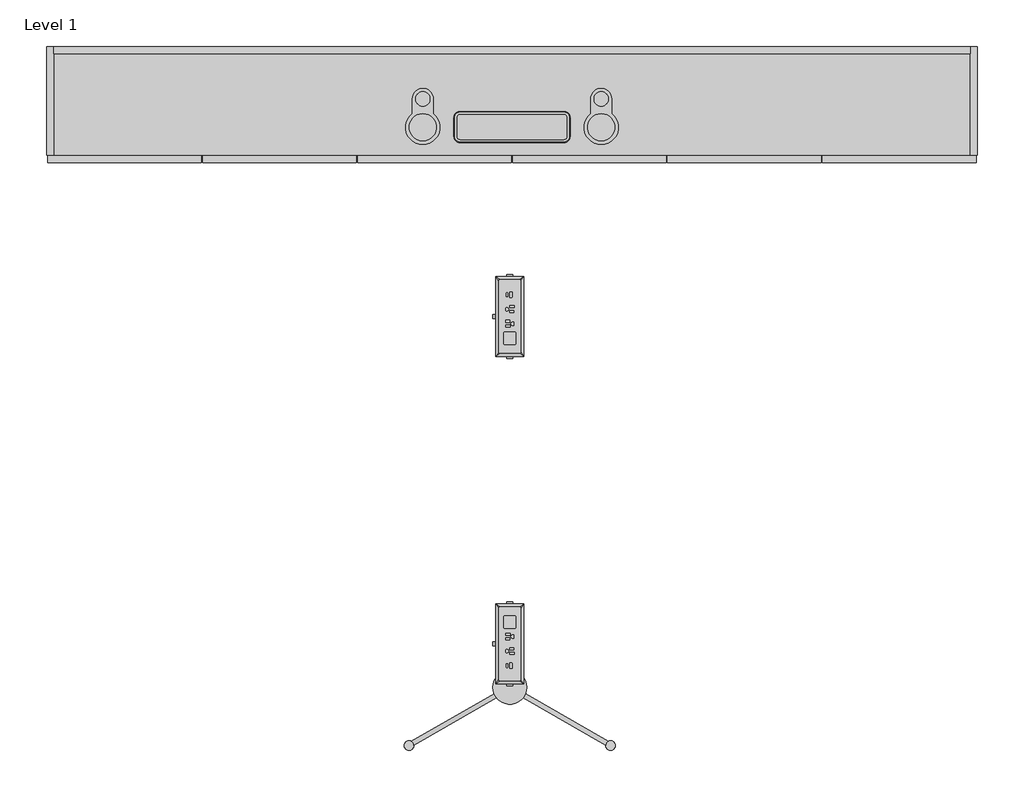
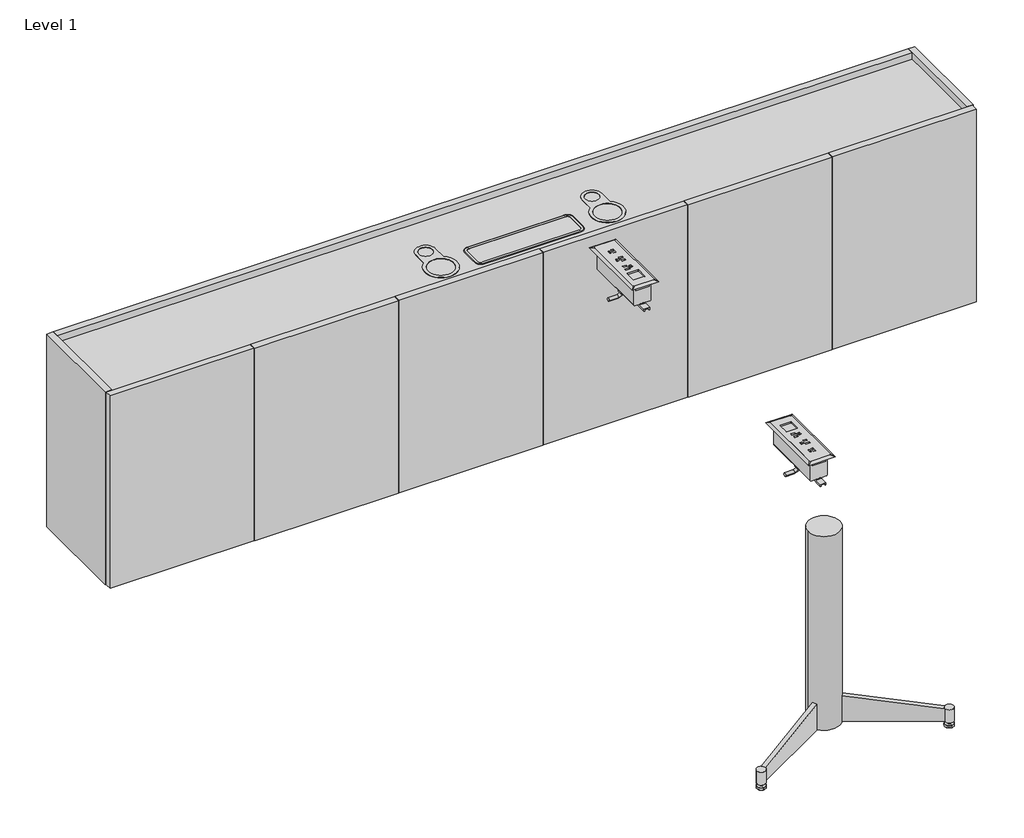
# One storey, incomplete: 4 furniture elements.
"""IFC4 building model written with IfcOpenShell, lengths in millimetres."""

from ifc_helpers import new_model, si_unit, origin, place, context, project, spatial, transform, mapped, element, save
from components import furniture_a65631a2, in_surface_6b24b240, in_surface_33791ff7, mp_base_71be33a4

model = new_model("IFC4")

# Units and contexts
model_context = context("Model", 3, world=origin())
ifc_project = project(units=[si_unit("LENGTHUNIT", "METRE", prefix="MILLI")], contexts=[model_context])

# Site, building, storey
site = spatial("IfcSite", under=ifc_project)
building = spatial("IfcBuilding", under=site)
storey = spatial("IfcBuildingStorey", under=building, Name="Level 1", Elevation=0.0)

# Furniture
placement = place(None, origin())
furniture_shape = furniture_a65631a2(model_context)
element("IfcFurniture", 1, ObjectType="Geiger_GeigerOneCasegoods_UtilityCabinetForUseinHuddleApplication : Vertical Veneer 96Wx 12Dx 22.5H", at=placement, inside=storey, context=model_context, shape_type="MappedRepresentation", body=[
    mapped(furniture_shape, transform((2924.3133736, 4010.701504, 0.0), x_axis=(1.0, 0.0, 0.0), y_axis=(0.0, 1.0, 0.0), z_axis=(0.0, 0.0, 1.0))),
])
in_surface_shape = in_surface_6b24b240(model_context)
element("IfcFurniture", 2, ObjectType="Geiger_GeigerOneCasegoods_PowerComponent2PowerOutlets1USBA1USBC : In Surface", at=placement, inside=storey, context=model_context, shape_type="MappedRepresentation", body=[
    mapped(in_surface_shape, transform((4137.7288395, 2445.0467214, 794.4104), x_axis=(0.0, -1.0, 0.0), y_axis=(1.0, 0.0, 0.0), z_axis=(0.0, 0.0, 1.0))),
])
in_surface_2_shape = in_surface_33791ff7(model_context)
element("IfcFurniture", 3, ObjectType="Geiger_GeigerOneCasegoods_PowerComponent2PowerOutlets1USBA1USBC : In Surface", at=placement, inside=storey, context=model_context, shape_type="MappedRepresentation", body=[
    mapped(in_surface_2_shape, transform((4137.7288395, 3303.0562865, 794.4104), x_axis=(0.0, 1.0, 0.0), y_axis=(-1.0, 0.0, 0.0), z_axis=(0.0, 0.0, 1.0))),
])
mp_base_shape = mp_base_71be33a4(model_context)
element("IfcFurniture", 4, ObjectType="Geiger_GeigerOneCasegoods_LegSupport : MP Base", at=placement, inside=storey, context=model_context, shape_type="MappedRepresentation", body=[
    mapped(mp_base_shape, transform((4137.7288395, 2331.0940482, 16.9054), x_axis=(1.0, 0.0, 0.0), y_axis=(0.0, 1.0, 0.0), z_axis=(0.0, 0.0, 1.0))),
])

save(model, "model.ifc")
